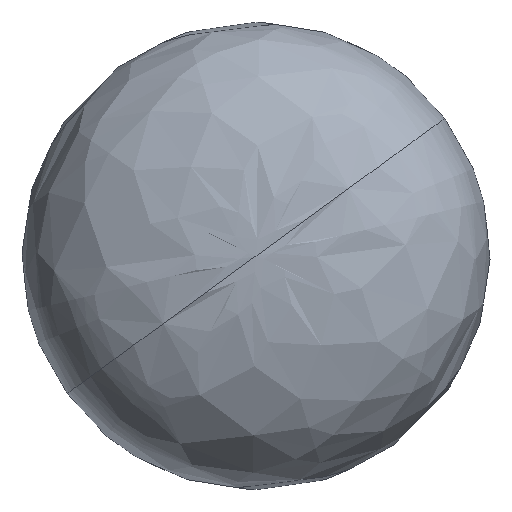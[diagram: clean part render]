
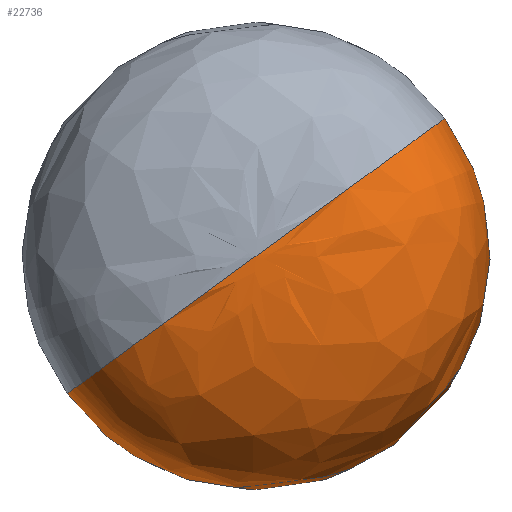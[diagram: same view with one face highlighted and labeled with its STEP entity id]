
A CAD part, front view. The second image highlights one B-rep face of the part: STEP entity #22736.
In plain terms, the highlighted free-form (B-spline) face has degree [3, 3] with [8, 4] control points.
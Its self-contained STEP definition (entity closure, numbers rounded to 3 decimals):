
#1089 = CARTESIAN_POINT ( 'NONE',  ( -33.052, -305.091, 91.503 ) ) ;
#1843 = CARTESIAN_POINT ( 'NONE',  ( -64.899, 22.618, 68.296 ) ) ;
#2060 = CARTESIAN_POINT ( 'NONE',  ( -108.622, 26.376, 36.434 ) ) ;
#2161 = CARTESIAN_POINT ( 'NONE',  ( 101.335, -64.547, -72.181 ) ) ;
#2484 = CARTESIAN_POINT ( 'NONE',  ( -184.191, -305.091, -18.635 ) ) ;
#4228 = VERTEX_POINT ( 'NONE', #24708 ) ;
#4310 = CARTESIAN_POINT ( 'NONE',  ( 28.825, 11.512, -34.67 ) ) ;
#4463 = CARTESIAN_POINT ( 'NONE',  ( -91.563, 26.376, -65.327 ) ) ;
#5915 = DIRECTION ( 'NONE',  ( -0.808, 0., -0.589 ) ) ;
#6814 = CARTESIAN_POINT ( 'NONE',  ( -210.018, -251.391, -37.456 ) ) ;
#7129 = CARTESIAN_POINT ( 'NONE',  ( -108.622, -305.091, 36.434 ) ) ;
#7292 = CARTESIAN_POINT ( 'NONE',  ( -14.872, -135.201, 104.751 ) ) ;
#7352 = CARTESIAN_POINT ( 'NONE',  ( -194.059, -64.547, -25.826 ) ) ;
#7462 = CARTESIAN_POINT ( 'NONE',  ( -74.053, -305.091, -169.774 ) ) ;
#7582 = ORIENTED_EDGE ( 'NONE', *, *, #24229, .F. ) ;
#8394 = CARTESIAN_POINT ( 'NONE',  ( -108.622, -305.091, 36.434 ) ) ;
#8706 = ORIENTED_EDGE ( 'NONE', *, *, #12325, .F. ) ;
#9317 = CARTESIAN_POINT ( 'NONE',  ( -23.185, -64.547, 98.694 ) ) ;
#9692 = CARTESIAN_POINT ( 'NONE',  ( -202.371, -135.201, -31.883 ) ) ;
#10216 = EDGE_CURVE ( 'NONE', #26430, #4228, #20889, .T. ) ;
#11949 = CARTESIAN_POINT ( 'NONE',  ( -1.175, 22.618, -19.151 ) ) ;
#12005 = CARTESIAN_POINT ( 'NONE',  ( -108.622, -305.091, 36.434 ) ) ;
#12266 = CARTESIAN_POINT ( 'NONE',  ( -16.977, 26.376, -10.975 ) ) ;
#12325 = EDGE_CURVE ( 'NONE', #26430, #19826, #14070, .T. ) ;
#12423 = CARTESIAN_POINT ( 'NONE',  ( 140.554, -251.391, -92.469 ) ) ;
#12583 = CARTESIAN_POINT ( 'NONE',  ( 121.762, -135.201, -82.748 ) ) ;
#13890 =( BOUNDED_SURFACE ( )  B_SPLINE_SURFACE ( 3, 3, ( 
 ( #7129, #25224, #30178, #16890 ),
 ( #17057, #27212, #7462, #2484 ),
 ( #30004, #12423, #14587, #6814 ),
 ( #7292, #12583, #17390, #22727 ),
 ( #9317, #2161, #19386, #27047 ),
 ( #29535, #4310, #14426, #24557 ),
 ( #1843, #11949, #24887, #22060 ),
 ( #32193, #12266, #4463, #24721 ) ),
 .UNSPECIFIED., .F., .F., .T. ) 
 B_SPLINE_SURFACE_WITH_KNOTS ( ( 4, 1, 1, 1, 1, 4 ),
 ( 4, 4 ),
 ( 0.125, 0.303, 0.379, 0.826, 0.893, 1. ),
 ( 0., 1. ),
 .UNSPECIFIED. ) 
 GEOMETRIC_REPRESENTATION_ITEM ( )  RATIONAL_B_SPLINE_SURFACE ( (
 ( 1., 0.333, 0.333, 1.),
 ( 1., 0.333, 0.333, 1.),
 ( 1., 0.333, 0.333, 1.),
 ( 1., 0.333, 0.333, 1.),
 ( 1., 0.333, 0.333, 1.),
 ( 1., 0.333, 0.333, 1.),
 ( 1., 0.333, 0.333, 1.),
 ( 1., 0.333, 0.333, 1.) ) ) 
 REPRESENTATION_ITEM ( '' )  SURFACE ( )  );
#14070 = B_SPLINE_CURVE_WITH_KNOTS ( 'NONE', 3,
 ( #8394, #1089, #16128, #21136, #23813, #24121, #31588, #18476 ),
 .UNSPECIFIED., .F., .F.,
 ( 4, 1, 1, 1, 1, 4 ),
 ( 0.125, 0.303, 0.379, 0.826, 0.893, 1. ),
 .UNSPECIFIED. ) ;
#14085 = FACE_OUTER_BOUND ( 'NONE', #15881, .T. ) ;
#14426 = CARTESIAN_POINT ( 'NONE',  ( -83.037, 11.512, -116.186 ) ) ;
#14587 = CARTESIAN_POINT ( 'NONE',  ( -62.239, -251.391, -240.248 ) ) ;
#15004 = AXIS2_PLACEMENT_3D ( 'NONE', #2060, #32098, #5915 ) ;
#15535 = CIRCLE ( 'NONE', #15004, 46.144 ) ;
#15881 = EDGE_LOOP ( 'NONE', ( #8706, #18574, #7582 ) ) ;
#16128 = CARTESIAN_POINT ( 'NONE',  ( -7.225, -251.391, 110.324 ) ) ;
#16890 = CARTESIAN_POINT ( 'NONE',  ( -108.622, -305.091, 36.434 ) ) ;
#17057 = CARTESIAN_POINT ( 'NONE',  ( -33.052, -305.091, 91.503 ) ) ;
#17390 = CARTESIAN_POINT ( 'NONE',  ( -65.737, -135.201, -219.382 ) ) ;
#17971 = CARTESIAN_POINT ( 'NONE',  ( -71.329, 26.376, 63.61 ) ) ;
#18476 = CARTESIAN_POINT ( 'NONE',  ( -71.329, 26.376, 63.61 ) ) ;
#18574 = ORIENTED_EDGE ( 'NONE', *, *, #10216, .T. ) ;
#19386 = CARTESIAN_POINT ( 'NONE',  ( -69.539, -64.547, -196.7 ) ) ;
#19443 = CARTESIAN_POINT ( 'NONE',  ( -184.191, -305.091, -18.635 ) ) ;
#19758 = CARTESIAN_POINT ( 'NONE',  ( -164.553, 11.512, -4.324 ) ) ;
#19792 = CARTESIAN_POINT ( 'NONE',  ( -108.622, -305.091, 36.434 ) ) ;
#19826 = VERTEX_POINT ( 'NONE', #17971 ) ;
#20889 = B_SPLINE_CURVE_WITH_KNOTS ( 'NONE', 3,
 ( #12005, #19443, #27106, #9692, #7352, #19758, #27425, #29756 ),
 .UNSPECIFIED., .F., .F.,
 ( 4, 1, 1, 1, 1, 4 ),
 ( 0.125, 0.303, 0.379, 0.826, 0.893, 1. ),
 .UNSPECIFIED. ) ;
#21136 = CARTESIAN_POINT ( 'NONE',  ( -14.872, -135.201, 104.751 ) ) ;
#22060 = CARTESIAN_POINT ( 'NONE',  ( -152.345, 22.618, 4.572 ) ) ;
#22727 = CARTESIAN_POINT ( 'NONE',  ( -202.371, -135.201, -31.883 ) ) ;
#22736 = ADVANCED_FACE ( 'NONE', ( #14085 ), #13890, .F. ) ;
#23813 = CARTESIAN_POINT ( 'NONE',  ( -23.185, -64.547, 98.694 ) ) ;
#24121 = CARTESIAN_POINT ( 'NONE',  ( -52.691, 11.512, 77.192 ) ) ;
#24229 = EDGE_CURVE ( 'NONE', #19826, #4228, #15535, .T. ) ;
#24557 = CARTESIAN_POINT ( 'NONE',  ( -164.553, 11.512, -4.324 ) ) ;
#24708 = CARTESIAN_POINT ( 'NONE',  ( -145.914, 26.376, 9.258 ) ) ;
#24721 = CARTESIAN_POINT ( 'NONE',  ( -145.914, 26.376, 9.258 ) ) ;
#24887 = CARTESIAN_POINT ( 'NONE',  ( -88.621, 22.618, -82.875 ) ) ;
#25224 = CARTESIAN_POINT ( 'NONE',  ( -108.622, -305.091, 36.434 ) ) ;
#26430 = VERTEX_POINT ( 'NONE', #19792 ) ;
#27047 = CARTESIAN_POINT ( 'NONE',  ( -194.059, -64.547, -25.826 ) ) ;
#27106 = CARTESIAN_POINT ( 'NONE',  ( -210.018, -251.391, -37.456 ) ) ;
#27212 = CARTESIAN_POINT ( 'NONE',  ( 77.086, -305.091, -59.636 ) ) ;
#27425 = CARTESIAN_POINT ( 'NONE',  ( -152.345, 22.618, 4.572 ) ) ;
#29535 = CARTESIAN_POINT ( 'NONE',  ( -52.691, 11.512, 77.192 ) ) ;
#29756 = CARTESIAN_POINT ( 'NONE',  ( -145.914, 26.376, 9.258 ) ) ;
#30004 = CARTESIAN_POINT ( 'NONE',  ( -7.225, -251.391, 110.324 ) ) ;
#30178 = CARTESIAN_POINT ( 'NONE',  ( -108.622, -305.091, 36.434 ) ) ;
#31588 = CARTESIAN_POINT ( 'NONE',  ( -64.899, 22.618, 68.296 ) ) ;
#32098 = DIRECTION ( 'NONE',  ( 0., 1., 0. ) ) ;
#32193 = CARTESIAN_POINT ( 'NONE',  ( -71.329, 26.376, 63.61 ) ) ;
